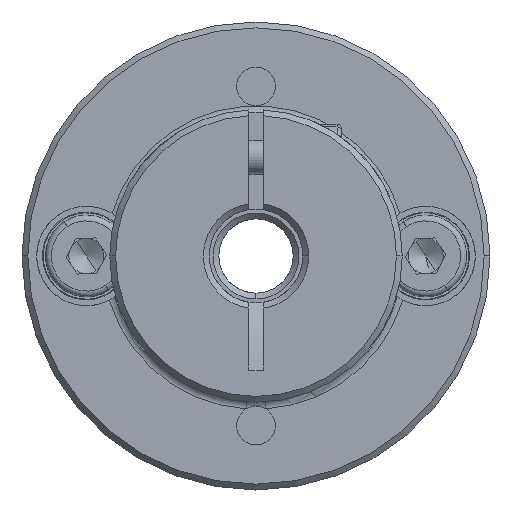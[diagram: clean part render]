
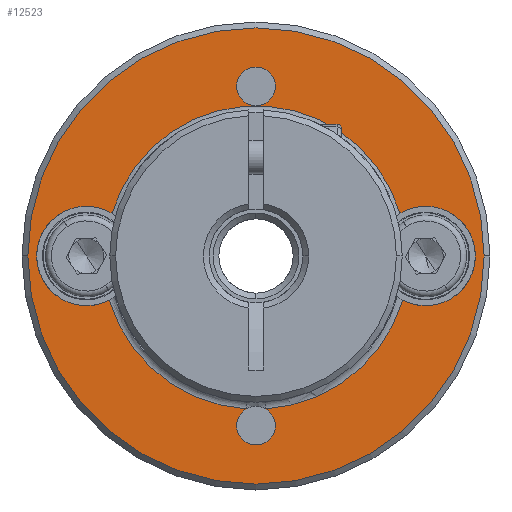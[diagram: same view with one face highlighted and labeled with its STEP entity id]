
A CAD part, front view. The second image highlights one B-rep face of the part: STEP entity #12523.
In plain terms, the highlighted planar face has unit normal (0, -1, 0).
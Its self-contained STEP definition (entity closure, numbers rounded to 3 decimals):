
#22 = DIRECTION ( 'NONE',  ( 1., 0., 0. ) ) ;
#101 = CARTESIAN_POINT ( 'NONE',  ( -26.505, -13.63, 40. ) ) ;
#121 = CARTESIAN_POINT ( 'NONE',  ( -30.755, -13.63, 40. ) ) ;
#239 = ORIENTED_EDGE ( 'NONE', *, *, #3743, .T. ) ;
#288 = CIRCLE ( 'NONE', #2612, 13.1 ) ;
#345 = CIRCLE ( 'NONE', #2595, 12.829 ) ;
#438 = CARTESIAN_POINT ( 'NONE',  ( -24.307, -13.63, 43.638 ) ) ;
#474 = CARTESIAN_POINT ( 'NONE',  ( -24.55, -13.63, 36.226 ) ) ;
#490 = FACE_OUTER_BOUND ( 'NONE', #3063, .T. ) ;
#591 = VERTEX_POINT ( 'NONE', #1361 ) ;
#820 = AXIS2_PLACEMENT_3D ( 'NONE', #2093, #6065, #1022 ) ;
#945 = EDGE_CURVE ( 'NONE', #10499, #11826, #4393, .T. ) ;
#1022 = DIRECTION ( 'NONE',  ( 1., 0., 0. ) ) ;
#1230 = VERTEX_POINT ( 'NONE', #8557 ) ;
#1361 = CARTESIAN_POINT ( 'NONE',  ( -12.834, -13.63, 26.926 ) ) ;
#1387 = CARTESIAN_POINT ( 'NONE',  ( -12.005, -13.63, 40. ) ) ;
#1491 = CIRCLE ( 'NONE', #3914, 19.5 ) ;
#1511 = ORIENTED_EDGE ( 'NONE', *, *, #12658, .T. ) ;
#1587 = AXIS2_PLACEMENT_3D ( 'NONE', #3103, #4959, #22 ) ;
#1817 = EDGE_CURVE ( 'NONE', #11641, #3787, #7134, .T. ) ;
#1855 = DIRECTION ( 'NONE',  ( 0., -1., 0. ) ) ;
#1860 = DIRECTION ( 'NONE',  ( 0., 1., 0. ) ) ;
#1921 = AXIS2_PLACEMENT_3D ( 'NONE', #2915, #5768, #4977 ) ;
#1973 = DIRECTION ( 'NONE',  ( 1., 0., 0. ) ) ;
#2093 = CARTESIAN_POINT ( 'NONE',  ( -12.005, -13.63, 54.5 ) ) ;
#2393 = DIRECTION ( 'NONE',  ( 0., 1., 0. ) ) ;
#2594 = ORIENTED_EDGE ( 'NONE', *, *, #3418, .T. ) ;
#2595 = AXIS2_PLACEMENT_3D ( 'NONE', #5896, #10896, #7846 ) ;
#2609 = CARTESIAN_POINT ( 'NONE',  ( -13.655, -13.63, 54.5 ) ) ;
#2612 = AXIS2_PLACEMENT_3D ( 'NONE', #5962, #3926, #4016 ) ;
#2879 = VERTEX_POINT ( 'NONE', #438 ) ;
#2915 = CARTESIAN_POINT ( 'NONE',  ( -12.005, -13.63, 40. ) ) ;
#3028 = ORIENTED_EDGE ( 'NONE', *, *, #8217, .T. ) ;
#3063 = EDGE_LOOP ( 'NONE', ( #8744, #1511 ) ) ;
#3103 = CARTESIAN_POINT ( 'NONE',  ( -12.005, -13.63, 25.5 ) ) ;
#3136 = ORIENTED_EDGE ( 'NONE', *, *, #5390, .T. ) ;
#3254 = CARTESIAN_POINT ( 'NONE',  ( 2.495, -13.63, 40. ) ) ;
#3371 = CARTESIAN_POINT ( 'NONE',  ( -13.655, -13.63, 25.5 ) ) ;
#3418 = EDGE_CURVE ( 'NONE', #1230, #8585, #10480, .T. ) ;
#3609 = ORIENTED_EDGE ( 'NONE', *, *, #11098, .T. ) ;
#3636 = CARTESIAN_POINT ( 'NONE',  ( -26.505, -13.63, 40. ) ) ;
#3723 = CIRCLE ( 'NONE', #1921, 13.1 ) ;
#3743 = EDGE_CURVE ( 'NONE', #6119, #9238, #288, .T. ) ;
#3787 = VERTEX_POINT ( 'NONE', #121 ) ;
#3893 = CARTESIAN_POINT ( 'NONE',  ( -10.355, -13.63, 25.5 ) ) ;
#3909 = EDGE_CURVE ( 'NONE', #8622, #4452, #1491, .T. ) ;
#3914 = AXIS2_PLACEMENT_3D ( 'NONE', #1387, #8351, #9434 ) ;
#3926 = DIRECTION ( 'NONE',  ( 0., 1., 0. ) ) ;
#3998 = DIRECTION ( 'NONE',  ( 0., 1., 0. ) ) ;
#4006 = CIRCLE ( 'NONE', #8548, 19.5 ) ;
#4016 = DIRECTION ( 'NONE',  ( 1., 0., 0. ) ) ;
#4159 = DIRECTION ( 'NONE',  ( 0., -1., 0. ) ) ;
#4229 = AXIS2_PLACEMENT_3D ( 'NONE', #3254, #2393, #8368 ) ;
#4393 = CIRCLE ( 'NONE', #9360, 1.65 ) ;
#4452 = VERTEX_POINT ( 'NONE', #9012 ) ;
#4464 = CARTESIAN_POINT ( 'NONE',  ( 6.745, -13.63, 40. ) ) ;
#4800 = VERTEX_POINT ( 'NONE', #3893 ) ;
#4947 = ORIENTED_EDGE ( 'NONE', *, *, #8810, .T. ) ;
#4959 = DIRECTION ( 'NONE',  ( 0., 1., 0. ) ) ;
#4977 = DIRECTION ( 'NONE',  ( 1., 0., 0. ) ) ;
#4993 = VERTEX_POINT ( 'NONE', #3371 ) ;
#5057 = CARTESIAN_POINT ( 'NONE',  ( -12.005, -13.63, 54.5 ) ) ;
#5133 = EDGE_CURVE ( 'NONE', #3787, #2879, #10350, .T. ) ;
#5174 = CARTESIAN_POINT ( 'NONE',  ( -11.175, -13.63, 26.926 ) ) ;
#5203 = DIRECTION ( 'NONE',  ( 1., 0., 0. ) ) ;
#5282 = CIRCLE ( 'NONE', #8531, 4.25 ) ;
#5311 = CARTESIAN_POINT ( 'NONE',  ( -12.005, -13.63, 25.5 ) ) ;
#5390 = EDGE_CURVE ( 'NONE', #4800, #4993, #7437, .T. ) ;
#5471 = AXIS2_PLACEMENT_3D ( 'NONE', #101, #3998, #7932 ) ;
#5768 = DIRECTION ( 'NONE',  ( 0., 1., 0. ) ) ;
#5896 = CARTESIAN_POINT ( 'NONE',  ( -12.005, -13.63, 40. ) ) ;
#5962 = CARTESIAN_POINT ( 'NONE',  ( -12.005, -13.63, 40. ) ) ;
#6012 = ORIENTED_EDGE ( 'NONE', *, *, #12502, .T. ) ;
#6056 = DIRECTION ( 'NONE',  ( 1., 0., 0. ) ) ;
#6065 = DIRECTION ( 'NONE',  ( 0., 1., 0. ) ) ;
#6119 = VERTEX_POINT ( 'NONE', #6208 ) ;
#6159 = ORIENTED_EDGE ( 'NONE', *, *, #12427, .T. ) ;
#6208 = CARTESIAN_POINT ( 'NONE',  ( 0.54, -13.63, 36.226 ) ) ;
#6398 = ORIENTED_EDGE ( 'NONE', *, *, #5133, .T. ) ;
#6455 = AXIS2_PLACEMENT_3D ( 'NONE', #5311, #11103, #11179 ) ;
#6520 = FACE_BOUND ( 'NONE', #8447, .T. ) ;
#6595 = CARTESIAN_POINT ( 'NONE',  ( -10.355, -13.63, 54.5 ) ) ;
#6902 = CIRCLE ( 'NONE', #6455, 1.65 ) ;
#7134 = CIRCLE ( 'NONE', #5471, 4.25 ) ;
#7437 = CIRCLE ( 'NONE', #1587, 1.65 ) ;
#7765 = PLANE ( 'NONE',  #8962 ) ;
#7846 = DIRECTION ( 'NONE',  ( 1., 0., 0. ) ) ;
#7886 = CIRCLE ( 'NONE', #820, 1.65 ) ;
#7932 = DIRECTION ( 'NONE',  ( 1., 0., 0. ) ) ;
#8217 = EDGE_CURVE ( 'NONE', #11826, #10499, #7886, .T. ) ;
#8276 = CARTESIAN_POINT ( 'NONE',  ( -12.005, -13.63, 25.5 ) ) ;
#8351 = DIRECTION ( 'NONE',  ( 0., -1., 0. ) ) ;
#8368 = DIRECTION ( 'NONE',  ( 1., 0., 0. ) ) ;
#8447 = EDGE_LOOP ( 'NONE', ( #10464, #6398, #6012, #2594, #3609, #239, #11265, #3136, #4947, #6159 ) ) ;
#8511 = FACE_BOUND ( 'NONE', #12314, .T. ) ;
#8531 = AXIS2_PLACEMENT_3D ( 'NONE', #12676, #1860, #11605 ) ;
#8548 = AXIS2_PLACEMENT_3D ( 'NONE', #11021, #4159, #11067 ) ;
#8557 = CARTESIAN_POINT ( 'NONE',  ( 0.298, -13.63, 43.638 ) ) ;
#8585 = VERTEX_POINT ( 'NONE', #4464 ) ;
#8622 = VERTEX_POINT ( 'NONE', #10379 ) ;
#8744 = ORIENTED_EDGE ( 'NONE', *, *, #3909, .T. ) ;
#8810 = EDGE_CURVE ( 'NONE', #4993, #591, #6902, .T. ) ;
#8962 = AXIS2_PLACEMENT_3D ( 'NONE', #11765, #1855, #1973 ) ;
#9012 = CARTESIAN_POINT ( 'NONE',  ( 7.495, -13.63, 40. ) ) ;
#9238 = VERTEX_POINT ( 'NONE', #5174 ) ;
#9360 = AXIS2_PLACEMENT_3D ( 'NONE', #5057, #11960, #6056 ) ;
#9434 = DIRECTION ( 'NONE',  ( 1., 0., 0. ) ) ;
#9884 = EDGE_CURVE ( 'NONE', #9238, #4800, #12728, .T. ) ;
#10350 = CIRCLE ( 'NONE', #10610, 4.25 ) ;
#10379 = CARTESIAN_POINT ( 'NONE',  ( -31.505, -13.63, 40. ) ) ;
#10464 = ORIENTED_EDGE ( 'NONE', *, *, #1817, .T. ) ;
#10480 = CIRCLE ( 'NONE', #4229, 4.25 ) ;
#10499 = VERTEX_POINT ( 'NONE', #2609 ) ;
#10588 = DIRECTION ( 'NONE',  ( 0., 1., 0. ) ) ;
#10610 = AXIS2_PLACEMENT_3D ( 'NONE', #3636, #10588, #12440 ) ;
#10896 = DIRECTION ( 'NONE',  ( 0., 1., 0. ) ) ;
#10924 = ORIENTED_EDGE ( 'NONE', *, *, #945, .T. ) ;
#10975 = AXIS2_PLACEMENT_3D ( 'NONE', #8276, #12104, #5203 ) ;
#11021 = CARTESIAN_POINT ( 'NONE',  ( -12.005, -13.63, 40. ) ) ;
#11067 = DIRECTION ( 'NONE',  ( 1., 0., 0. ) ) ;
#11098 = EDGE_CURVE ( 'NONE', #8585, #6119, #5282, .T. ) ;
#11103 = DIRECTION ( 'NONE',  ( 0., 1., 0. ) ) ;
#11179 = DIRECTION ( 'NONE',  ( 1., 0., 0. ) ) ;
#11265 = ORIENTED_EDGE ( 'NONE', *, *, #9884, .T. ) ;
#11605 = DIRECTION ( 'NONE',  ( 1., 0., 0. ) ) ;
#11641 = VERTEX_POINT ( 'NONE', #474 ) ;
#11765 = CARTESIAN_POINT ( 'NONE',  ( -12.005, -13.63, 40. ) ) ;
#11826 = VERTEX_POINT ( 'NONE', #6595 ) ;
#11960 = DIRECTION ( 'NONE',  ( 0., 1., 0. ) ) ;
#12104 = DIRECTION ( 'NONE',  ( 0., 1., 0. ) ) ;
#12314 = EDGE_LOOP ( 'NONE', ( #10924, #3028 ) ) ;
#12427 = EDGE_CURVE ( 'NONE', #591, #11641, #3723, .T. ) ;
#12440 = DIRECTION ( 'NONE',  ( 1., 0., 0. ) ) ;
#12502 = EDGE_CURVE ( 'NONE', #2879, #1230, #345, .T. ) ;
#12523 = ADVANCED_FACE ( 'NONE', ( #490, #6520, #8511 ), #7765, .T. ) ;
#12658 = EDGE_CURVE ( 'NONE', #4452, #8622, #4006, .T. ) ;
#12676 = CARTESIAN_POINT ( 'NONE',  ( 2.495, -13.63, 40. ) ) ;
#12728 = CIRCLE ( 'NONE', #10975, 1.65 ) ;
